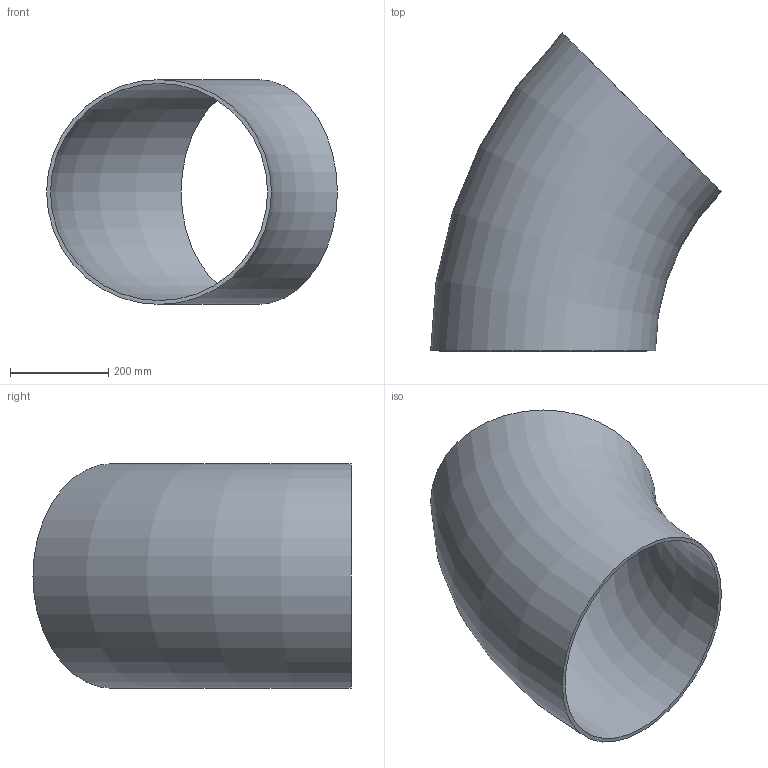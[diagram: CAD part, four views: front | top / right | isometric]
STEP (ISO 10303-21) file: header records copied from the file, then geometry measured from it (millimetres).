
FILE_DESCRIPTION(/* description */ (''),/* implementation_level */ '2;1');
FILE_NAME(/* name */ 'C:\Users\D\Documents\Inventor\HP\JIS\配管\エルボ ロング 45°\SGP\Elbow45-long-450A-SGP.stp',/* time_stamp */ '2022-06-08T16:59:03+09:00',/* author */ ('D'),/* organization */ (''),/* preprocessor_version */ 'ST-DEVELOPER v18',/* originating_system */ 'Autodesk Inventor 2020',/* authorisation */ '');
FILE_SCHEMA (('AUTOMOTIVE_DESIGN { 1 0 10303 214 3 1 1 }'));
Length unit declared in the file: millimetre
Products named in the file (1): Elbow-long-90-15A-SGP
Bounding box: 591.11 x 646.58 x 457.2 mm (x, y, z)
Volume: 6006213.2 mm3; surface area: 1542862.3 mm2
Topology: 1 solids, 1 shells, 4 faces, 10 edges, 8 vertices
Faces by surface type: torus 2, plane 2
Entity records: 181 total; most frequent: DIRECTION 30, CARTESIAN_POINT 23, ORIENTED_EDGE 20, AXIS2_PLACEMENT_3D 15, CIRCLE 10, EDGE_CURVE 10, VERTEX_POINT 8, EDGE_LOOP 6
